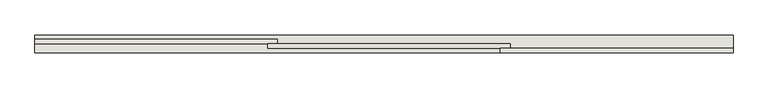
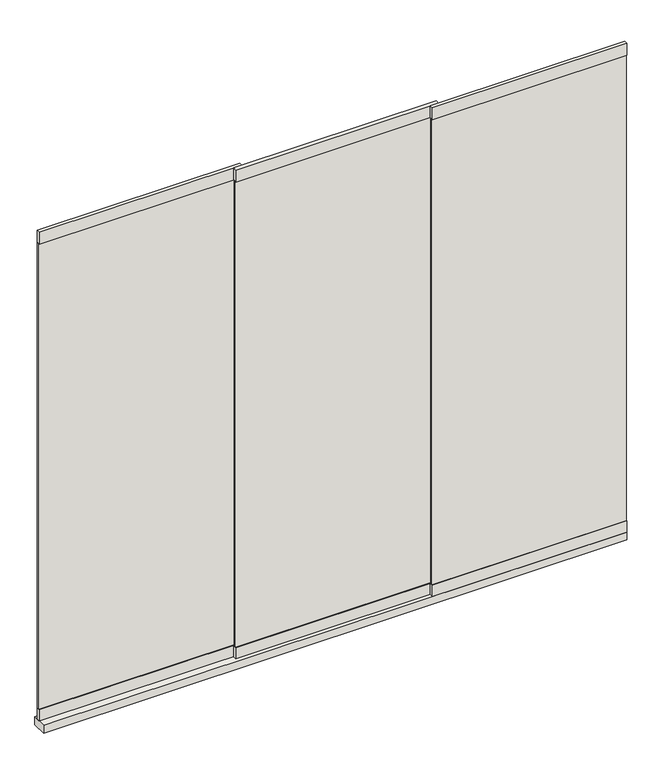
"""IFC4 building model written with IfcOpenShell, lengths in millimetres: wall geometry, Renson_Camargue_Glass_Sliding_Panel : Renson_Camargue_Glass_Sliding_Panel."""

import ifcopenshell
import ifcopenshell.guid

model = None  # the IFC model being written
_history = None  # IfcOwnerHistory: only IFC2X3 demands one
_inside = {}  # id of a spatial element -> (the spatial element, [elements in it])
_under = {}  # id of a project, library or spatial element -> (it, [spatial elements below it])
_declared = {}  # id of a project -> (the project, [libraries it declares])
_typed = {}  # id of a type object -> (the type object, [elements of that type])
_made_of = {}  # id of a material, layer set ... -> (it, [elements and type objects made of it])


def new_model(schema):
    """Start an empty IFC model of exactly this schema.

    Asked for "IFC4X3", IfcOpenShell would pick the latest addendum, in which some entities
    have other attributes; the version numbers below select the first issue.
    IFC2X3 requires an IfcOwnerHistory on every rooted entity: one is made here for all.
    """
    global model, _history
    if schema == "IFC4X3":
        model = ifcopenshell.file(schema_version=(4, 3, 0, 0))
    else:
        model = ifcopenshell.file(schema=schema)
    _inside.clear()
    _under.clear()
    _declared.clear()
    _typed.clear()
    _made_of.clear()
    _history = None
    if model.schema == "IFC2X3":
        org = make("IfcOrganization", Name="unknown")
        user = make(
            "IfcPersonAndOrganization",
            ThePerson=make("IfcPerson", FamilyName="unknown"),
            TheOrganization=org,
        )
        app = make(
            "IfcApplication",
            ApplicationDeveloper=org,
            Version="unknown",
            ApplicationFullName="unknown",
            ApplicationIdentifier="unknown",
        )
        _history = make(
            "IfcOwnerHistory",
            OwningUser=user,
            OwningApplication=app,
            ChangeAction="ADDED",
            CreationDate=0,
        )
    return model


def make(cls, **values):
    """One entity of the class cls with the attributes given. An attribute that is None is left unset."""
    return model.create_entity(
        cls, **{name: value for name, value in values.items() if value is not None}
    )


def rooted(cls, **values):
    """An entity with a GlobalId (a new one), such as an element, a storey or a relation."""
    return make(cls, GlobalId=ifcopenshell.guid.new(), OwnerHistory=_history, **values)


def si_unit(unit_type, name, prefix=None):
    """IfcSIUnit, for example si_unit("LENGTHUNIT", "METRE", prefix="MILLI")."""
    return make("IfcSIUnit", UnitType=unit_type, Prefix=prefix, Name=name)


def assignment(units):
    """IfcUnitAssignment: the units of a project."""
    return None if units is None else make("IfcUnitAssignment", Units=units)


def point(xyz):
    """IfcCartesianPoint."""
    return None if xyz is None else make("IfcCartesianPoint", Coordinates=xyz)


def direction(xyz):
    """IfcDirection."""
    return None if xyz is None else make("IfcDirection", DirectionRatios=xyz)


def frame(location, z_axis=None, x_axis=None):
    """IfcAxis2Placement3D, a coordinate frame: its origin and axes. An axis left out is left unset."""
    return make(
        "IfcAxis2Placement3D",
        Location=point(location),
        Axis=direction(z_axis),
        RefDirection=direction(x_axis),
    )


def origin():
    """The frame at (0, 0, 0) with its axes left unset."""
    return frame((0.0, 0.0, 0.0))


def origin_with_axes():
    """The frame at (0, 0, 0) with the z axis (0, 0, 1) and the x axis (1, 0, 0) written out."""
    return frame((0.0, 0.0, 0.0), z_axis=(0.0, 0.0, 1.0), x_axis=(1.0, 0.0, 0.0))


def place(relative_to, where):
    """IfcLocalPlacement: puts the frame where relative to a parent placement (None: the world)."""
    return make(
        "IfcLocalPlacement", PlacementRelTo=relative_to, RelativePlacement=where
    )


def context(
    kind, dimensions, precision=None, world=None, true_north=None, identifier=None
):
    """IfcGeometricRepresentationContext, for example the 3D "Model" context."""
    return make(
        "IfcGeometricRepresentationContext",
        ContextIdentifier=identifier,
        ContextType=kind,
        CoordinateSpaceDimension=dimensions,
        Precision=precision,
        WorldCoordinateSystem=world,
        TrueNorth=true_north,
    )


def project(units=None, contexts=None):
    """IfcProject with its units and contexts."""
    return rooted(
        "IfcProject",
        Name="project",
        RepresentationContexts=contexts,
        UnitsInContext=assignment(units),
    )


def spatial(cls, under=None, at=None, **own):
    """A site, building, storey or space (cls), placed at a placement, below another one or the project."""
    s = rooted(cls, ObjectPlacement=at, **own)
    if under is not None:
        _under.setdefault(under.id(), (under, []))[1].append(s)
    return s


def polyline(points):
    """IfcPolyline through the points."""
    return make("IfcPolyline", Points=[point(p) for p in points])


def outline(outer, holes=None, kind="AREA"):
    """IfcArbitraryClosedProfileDef: a profile drawn as a closed curve; with holes, ...WithVoids."""
    if holes is None:
        return make("IfcArbitraryClosedProfileDef", ProfileType=kind, OuterCurve=outer)
    return make(
        "IfcArbitraryProfileDefWithVoids",
        ProfileType=kind,
        OuterCurve=outer,
        InnerCurves=holes,
    )


def extrude(swept, where, along, depth):
    """IfcExtrudedAreaSolid: the profile swept, set in the frame where, extruded along a direction by depth."""
    return make(
        "IfcExtrudedAreaSolid",
        SweptArea=swept,
        Position=where,
        ExtrudedDirection=direction(along),
        Depth=depth,
    )


def shape(context_of_items, identifier, shape_type, items):
    """IfcShapeRepresentation: the items that make up one representation, for example the "Body"."""
    return make(
        "IfcShapeRepresentation",
        ContextOfItems=context_of_items,
        RepresentationIdentifier=identifier,
        RepresentationType=shape_type,
        Items=items,
    )


def source(mapping_origin, context_of_items, identifier, shape_type, items):
    """IfcRepresentationMap: a shape defined once, which mapped items show again and again."""
    return make(
        "IfcRepresentationMap",
        MappingOrigin=mapping_origin,
        MappedRepresentation=shape(context_of_items, identifier, shape_type, items),
    )


def transform(
    local_origin,
    x_axis=None,
    y_axis=None,
    z_axis=None,
    scale=None,
    scale2=None,
    scale3=None,
    uniform=True,
):
    """IfcCartesianTransformationOperator3D, or its non-uniform kind. x_axis, y_axis, z_axis: its Axis1, 2, 3."""
    if uniform:
        return make(
            "IfcCartesianTransformationOperator3D",
            Axis1=direction(x_axis),
            Axis2=direction(y_axis),
            LocalOrigin=point(local_origin),
            Scale=scale,
            Axis3=direction(z_axis),
        )
    return make(
        "IfcCartesianTransformationOperator3DnonUniform",
        Axis1=direction(x_axis),
        Axis2=direction(y_axis),
        LocalOrigin=point(local_origin),
        Scale=scale,
        Axis3=direction(z_axis),
        Scale2=scale2,
        Scale3=scale3,
    )


def mapped(mapping_source, mapping_target):
    """IfcMappedItem: shows the shape of a source again, moved by a transform."""
    return make(
        "IfcMappedItem", MappingSource=mapping_source, MappingTarget=mapping_target
    )


def made_of(thing, what):
    """Note that an element or type object is made of a material, layer set ...; save() writes the relation."""
    if what is not None:
        _made_of.setdefault(what.id(), (what, []))[1].append(thing)
    return thing


def element(
    cls,
    number,
    at=None,
    inside=None,
    cuts=None,
    type_object=None,
    material=None,
    context=None,
    identifier="Body",
    shape_type=None,
    held_by="IfcProductDefinitionShape",
    body=None,
    shapes=None,
    **own,
):
    """One element of the class cls, such as IfcWall. Its Tag is "e" and its number.

    at: its placement. inside: the storey or other place that contains it. cuts: it is an
    opening in that element (IfcRelVoidsElement). A single representation is given by context,
    identifier, shape_type and body (its items); several are given by shapes. held_by: the class
    of the entity that holds the representations. save() writes the other relations.
    """
    e = rooted(cls, Tag="e%d" % number, ObjectPlacement=at, **own)
    if body is not None:
        shapes = [shape(context, identifier, shape_type, body)]
    if shapes is not None:
        e.Representation = make(held_by, Representations=shapes)
    if inside is not None:
        _inside.setdefault(inside.id(), (inside, []))[1].append(e)
    if cuts is not None:
        rooted(
            "IfcRelVoidsElement", RelatingBuildingElement=cuts, RelatedOpeningElement=e
        )
    if type_object is not None:
        _typed.setdefault(type_object.id(), (type_object, []))[1].append(e)
    return made_of(e, material)


def aggregate(whole, parts):
    """IfcRelAggregates: a whole, such as a stair, and the parts it consists of."""
    return rooted("IfcRelAggregates", RelatingObject=whole, RelatedObjects=parts)


def save(model, path):
    """Write the relations noted so far, then the file.

    IfcRelAggregates (storeys below a building ...), IfcRelContainedInSpatialStructure (elements
    in a storey), IfcRelDefinesByType, IfcRelAssociatesMaterial and IfcRelDeclares: one each for
    every whole, place, type object, material and project.
    """
    for whole, parts in _under.values():
        aggregate(whole, parts)
    for where, things in _inside.values():
        rooted(
            "IfcRelContainedInSpatialStructure",
            RelatedElements=things,
            RelatingStructure=where,
        )
    for kind, things in _typed.values():
        rooted("IfcRelDefinesByType", RelatedObjects=things, RelatingType=kind)
    for what, things in _made_of.values():
        rooted("IfcRelAssociatesMaterial", RelatedObjects=things, RelatingMaterial=what)
    for by, libraries in _declared.values():
        rooted("IfcRelDeclares", RelatingContext=by, RelatedDefinitions=libraries)
    model.write(path)


def wall_14e47ea5(model_context):
    return source(origin(), model_context, "Body", "SweptSolid", [
        extrude(outline(polyline([(750.0, 0.0), (-1750.0, 0.0), (-1750.0, 64.0), (750.0, 64.0), (750.0, 0.0)])), origin_with_axes(), (0.0, 0.0, 1.0), 35.0),
        extrude(outline(polyline([(750.0, 3.0), (-83.3333333, 3.0), (-83.3333333, 13.0), (750.0, 13.0), (750.0, 3.0)])), frame((0.0, 0.0, 86.0), z_axis=(0.0, 0.0, 1.0), x_axis=(1.0, 0.0, 0.0)), (0.0, 0.0, 1.0), 2110.0),
        extrude(outline(polyline([(-48.3333333, 19.0), (-916.6666667, 19.0), (-916.6666667, 29.0), (-48.3333333, 29.0), (-48.3333333, 19.0)])), frame((0.0, 0.0, 86.0), z_axis=(0.0, 0.0, 1.0), x_axis=(1.0, 0.0, 0.0)), (0.0, 0.0, 1.0), 2110.0),
        extrude(outline(polyline([(-881.6666667, 35.0), (-1750.0, 35.0), (-1750.0, 45.0), (-881.6666667, 45.0), (-881.6666667, 35.0)])), frame((0.0, 0.0, 86.0), z_axis=(0.0, 0.0, 1.0), x_axis=(1.0, 0.0, 0.0)), (0.0, 0.0, 1.0), 2110.0),
        extrude(outline(polyline([(750.0, 0.0), (-83.3333333, 0.0), (-83.3333333, 16.0), (750.0, 16.0), (750.0, 0.0)])), frame((0.0, 0.0, 2196.0), z_axis=(0.0, 0.0, 1.0), x_axis=(1.0, 0.0, 0.0)), (0.0, 0.0, 1.0), 54.0),
        extrude(outline(polyline([(-48.3333333, 16.0), (-916.6666667, 16.0), (-916.6666667, 32.0), (-48.3333333, 32.0), (-48.3333333, 16.0)])), frame((0.0, 0.0, 2196.0), z_axis=(0.0, 0.0, 1.0), x_axis=(1.0, 0.0, 0.0)), (0.0, 0.0, 1.0), 54.0),
        extrude(outline(polyline([(-881.6666667, 32.0), (-1750.0, 32.0), (-1750.0, 48.0), (-881.6666667, 48.0), (-881.6666667, 32.0)])), frame((0.0, 0.0, 2196.0), z_axis=(0.0, 0.0, 1.0), x_axis=(1.0, 0.0, 0.0)), (0.0, 0.0, 1.0), 54.0),
        extrude(outline(polyline([(750.0, 0.0), (-83.3333333, 0.0), (-83.3333333, 16.0), (750.0, 16.0), (750.0, 0.0)])), frame((0.0, 0.0, 35.0), z_axis=(0.0, 0.0, 1.0), x_axis=(1.0, 0.0, 0.0)), (0.0, 0.0, 1.0), 51.0),
        extrude(outline(polyline([(-48.3333333, 16.0), (-916.6666667, 16.0), (-916.6666667, 32.0), (-48.3333333, 32.0), (-48.3333333, 16.0)])), frame((0.0, 0.0, 35.0), z_axis=(0.0, 0.0, 1.0), x_axis=(1.0, 0.0, 0.0)), (0.0, 0.0, 1.0), 51.0),
        extrude(outline(polyline([(-881.6666667, 32.0), (-1750.0, 32.0), (-1750.0, 48.0), (-881.6666667, 48.0), (-881.6666667, 32.0)])), frame((0.0, 0.0, 35.0), z_axis=(0.0, 0.0, 1.0), x_axis=(1.0, 0.0, 0.0)), (0.0, 0.0, 1.0), 51.0),
    ])


if __name__ == "__main__":
    model = new_model("IFC4")
    model_context = context("Model", 3, world=origin())
    ifc_project = project(units=[si_unit("LENGTHUNIT", "METRE", prefix="MILLI")], contexts=[model_context])
    site = spatial("IfcSite", under=ifc_project)
    building = spatial("IfcBuilding", under=site)
    placement = place(None, origin())
    wall_shape = wall_14e47ea5(model_context)
    element("IfcWall", 1, ObjectType="Renson_Camargue_Glass_Sliding_Panel : Renson_Camargue_Glass_Sliding_Panel", at=placement, inside=building, context=model_context, shape_type="MappedRepresentation", body=[
        mapped(wall_shape, transform((0.0, 0.0, 0.0), x_axis=(1.0, 0.0, 0.0), y_axis=(0.0, 1.0, 0.0), z_axis=(0.0, 0.0, 1.0))),
    ])
    save(model, "model.ifc")
